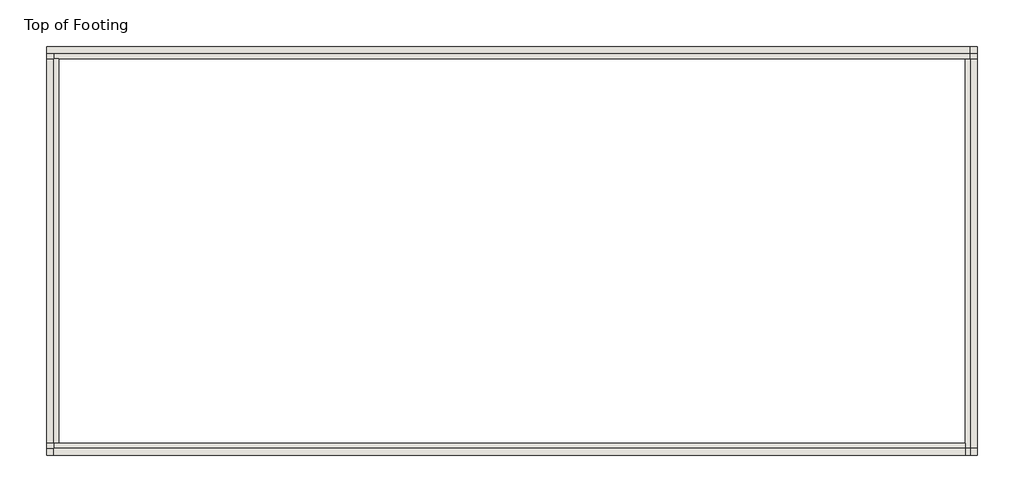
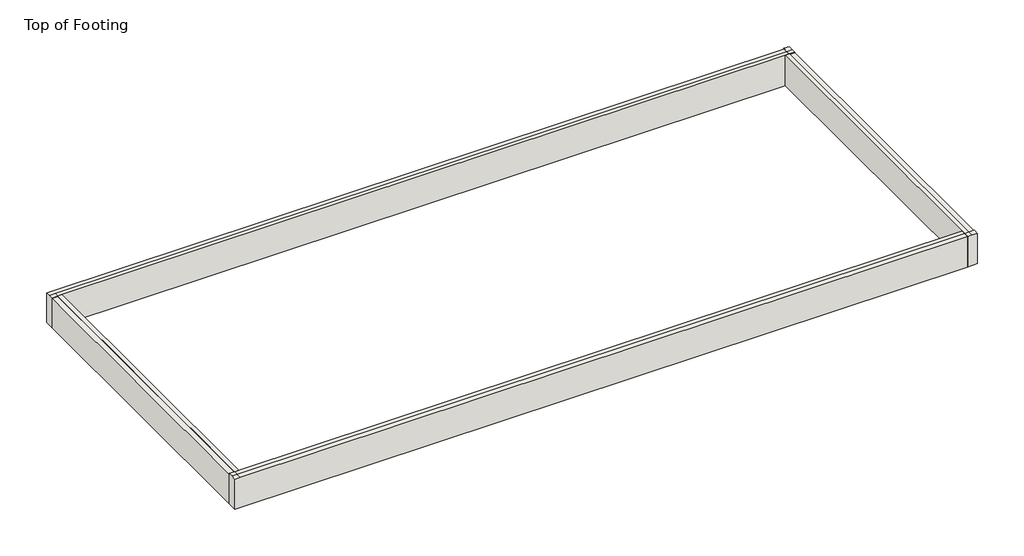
# One storey: 4 walls.
"""IFC4 building model written with IfcOpenShell, lengths in millimetres."""

from ifc_helpers import new_model, si_unit, frame, origin, place, context, project, spatial, polyline, outline, extrude, faceted_brep, element, save

model = new_model("IFC4")

# Units and contexts
model_context = context("Model", 3, world=origin())
ifc_project = project(units=[si_unit("LENGTHUNIT", "METRE", prefix="MILLI")], contexts=[model_context])

# Site, building, storey
site = spatial("IfcSite", under=ifc_project)
building = spatial("IfcBuilding", under=site)
storey = spatial("IfcBuildingStorey", under=building, Name="Top of Footing", Elevation=-1346.2)

# Walls
placement = place(None, origin())
element("IfcWall", 1, ObjectType="Foundation - 14\" Concrete w Brick Shelf", at=placement, inside=storey, context=model_context, shape_type="Brep", body=[
    faceted_brep([(-16007.9336494, 8152.9134644, -1346.2), (-15652.3336494, 8152.9134644, -1346.2), (10811.2913506, 8152.9134644, -1346.2), (11166.8913506, 8152.9134644, -1346.2), (11166.8913506, 8152.9134644, -203.2), (11166.8913506, 8152.9134644, -177.8), (10963.6913506, 8152.9134644, -177.8), (10811.2913506, 8152.9134644, -177.8), (-15652.3336494, 8152.9134644, -177.8), (-15804.7336494, 8152.9134644, -177.8), (-16007.9336494, 8152.9134644, -177.8), (-16007.9336494, 8152.9134644, -203.2), (11166.8913506, 8508.5134644, -1346.2), (-16007.9336494, 8508.5134644, -1346.2), (-16007.9336494, 8508.5134644, -203.2), (10963.6913506, 8508.5134644, -203.2), (10963.6913506, 8508.5134644, -177.8), (11166.8913506, 8508.5134644, -177.8), (11166.8913506, 8305.3134644, -177.8), (-16007.9336494, 8305.3134644, -177.8), (-16007.9336494, 8305.3134644, -203.2), (10963.6913506, 8305.3134644, -203.2), (-15804.7336494, 8305.3134644, -177.8), (10963.6913506, 8305.3134644, -177.8)], [[[0, 1, 2, 3, 4, 5, 6, 7, 8, 9, 10, 11]], [[12, 13, 14, 15, 16, 17]], [[3, 2, 1, 0, 13, 12]], [[5, 4, 3, 12, 17, 18]], [[0, 11, 10, 19, 20, 14, 13]], [[21, 20, 19, 22, 23]], [[20, 21, 15, 14]], [[10, 9, 22, 19]], [[6, 5, 18, 23]], [[17, 16, 23, 18]], [[9, 8, 7, 6, 23, 22]], [[15, 21, 23, 16]]]),
])
element("IfcWall", 2, ObjectType="Foundation - 14\" Concrete w Brick Shelf", at=placement, inside=storey, context=model_context, shape_type="Brep", body=[
    faceted_brep([(10811.2913506, 8152.9134644, -1346.2), (10811.2913506, -3070.7115356, -1346.2), (10811.2913506, -3426.3115356, -1346.2), (10811.2913506, -3426.3115356, -177.8), (10811.2913506, -3223.1115356, -177.8), (10811.2913506, -3070.7115356, -177.8), (10811.2913506, 8152.9134644, -177.8), (11166.8913506, -3426.3115356, -1346.2), (11166.8913506, 8152.9134644, -1346.2), (11166.8913506, 8152.9134644, -203.2), (11166.8913506, -3223.1115356, -203.2), (11166.8913506, -3223.1115356, -177.8), (11166.8913506, -3426.3115356, -177.8), (10963.6913506, 8152.9134644, -177.8), (10963.6913506, 8152.9134644, -203.2), (10963.6913506, -3426.3115356, -177.8), (10963.6913506, -3223.1115356, -177.8), (10963.6913506, -3223.1115356, -203.2)], [[[0, 1, 2, 3, 4, 5, 6]], [[7, 8, 9, 10, 11, 12]], [[2, 1, 0, 8, 7]], [[0, 6, 13, 14, 9, 8]], [[3, 2, 7, 12, 15]], [[3, 15, 16, 4]], [[15, 12, 11, 16]], [[6, 5, 4, 16, 13]], [[16, 17, 14, 13]], [[17, 10, 9, 14]], [[10, 17, 16, 11]]]),
])
element("IfcWall", 3, ObjectType="Foundation - 14\" Concrete w Brick Shelf", at=placement, inside=storey, context=model_context, shape_type="Brep", body=[
    faceted_brep([(10811.2913506, -3070.7115356, -1346.2), (-15652.3336494, -3070.7115356, -1346.2), (-16007.9336494, -3070.7115356, -1346.2), (-16007.9336494, -3070.7115356, -203.2), (-16007.9336494, -3070.7115356, -177.8), (-15804.7336494, -3070.7115356, -177.8), (-15652.3336494, -3070.7115356, -177.8), (10811.2913506, -3070.7115356, -177.8), (10811.2913506, -3426.3115356, -1346.2), (10811.2913506, -3426.3115356, -177.8), (-15804.7336494, -3426.3115356, -177.8), (-16007.9336494, -3426.3115356, -177.8), (-16007.9336494, -3426.3115356, -1346.2), (10811.2913506, -3223.1115356, -177.8), (-16007.9336494, -3223.1115356, -177.8), (-15804.7336494, -3223.1115356, -177.8)], [[[0, 1, 2, 3, 4, 5, 6, 7]], [[8, 9, 10, 11, 12]], [[2, 1, 0, 8, 12]], [[0, 7, 13, 9, 8]], [[4, 3, 2, 12, 11, 14]], [[5, 4, 14, 15]], [[10, 9, 13, 15]], [[14, 11, 10, 15]], [[7, 6, 5, 15, 13]]]),
])
element("IfcWall", 4, ObjectType="Foundation - 14\" Concrete w Brick Shelf", at=placement, inside=storey, context=model_context, shape_type="SweptSolid", body=[
    extrude(outline(polyline([(-1346.2, -15652.3336494), (-177.8, -15652.3336494), (-177.8, -15804.7336494), (-203.2, -15804.7336494), (-203.2, -16007.9336494), (-1346.2, -16007.9336494), (-1346.2, -15652.3336494)])), frame((0.0, -3070.7115356, 0.0), z_axis=(0.0, 1.0, 0.0), x_axis=(0.0, 0.0, 1.0)), (0.0, 0.0, 1.0), 11223.625),
])

save(model, "model.ifc")
